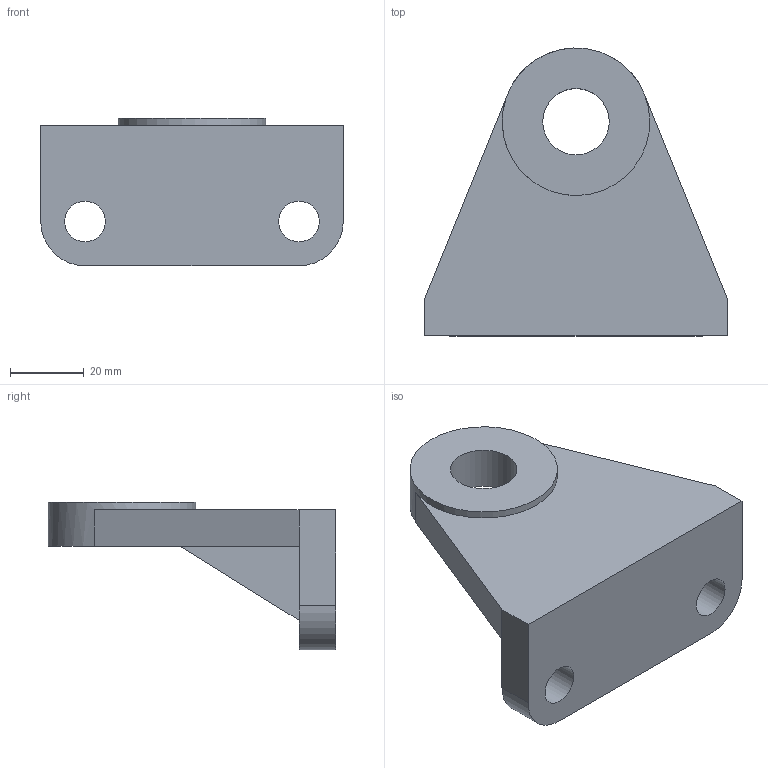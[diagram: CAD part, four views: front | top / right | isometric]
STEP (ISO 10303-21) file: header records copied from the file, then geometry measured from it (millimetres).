
FILE_DESCRIPTION(/* description */ (''),/* implementation_level */ '2;1');
FILE_NAME(/* name */ 'C:\Users\user\Documents\EIA\Cursos\Expresión Gráfica\Prácticas\Ensamble rueda\PT3 - Apoyo del eje central.stp',/* time_stamp */ '2020-04-25T01:03:37-05:00',/* author */ ('user'),/* organization */ (''),/* preprocessor_version */ 'ST-DEVELOPER v18',/* originating_system */ 'Autodesk Inventor 2020',/* authorisation */ '');
FILE_SCHEMA (('AUTOMOTIVE_DESIGN { 1 0 10303 214 3 1 1 }'));
Length unit declared in the file: millimetre
Products named in the file (1): PT3 - Apoyo del eje central
Bounding box: 82 x 78 x 40 mm (x, y, z)
Volume: 69120.6 mm3; surface area: 17790.9 mm2
Topology: 1 solids, 1 shells, 23 faces, 61 edges, 42 vertices
Faces by surface type: plane 15, cylinder 8
Full cylindrical faces by diameter (mm): 11 x2, 18 x1, 22 x2, 40 x1
Entity records: 784 total; most frequent: DIRECTION 133, CARTESIAN_POINT 127, ORIENTED_EDGE 122, EDGE_CURVE 61, AXIS2_PLACEMENT_3D 48, VERTEX_POINT 42, LINE 37, VECTOR 37
